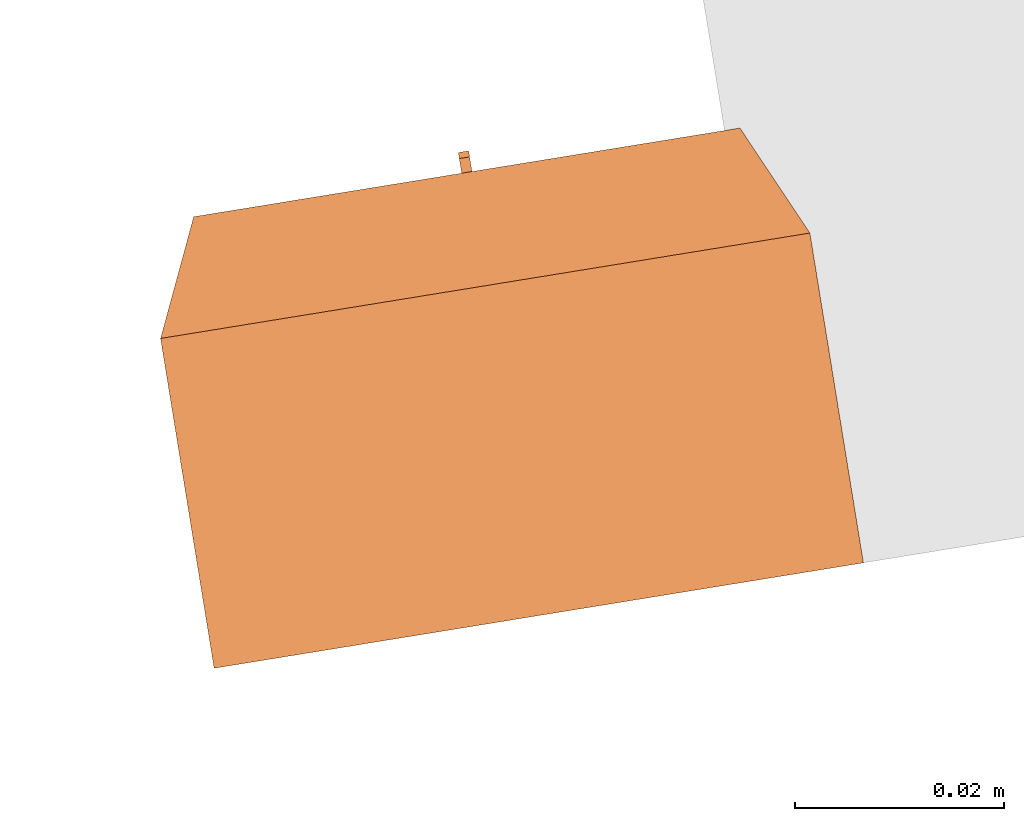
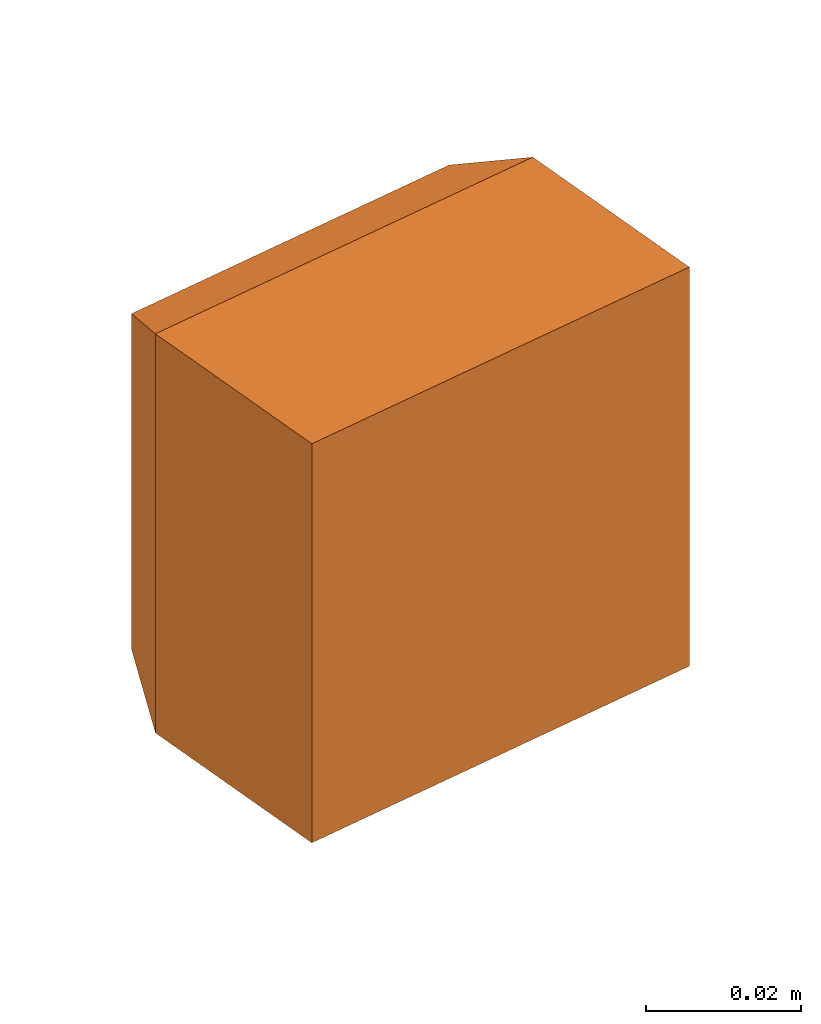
# One storey, part 20 of 20: 1 proxy.
"""IFC2X3 building model written with IfcOpenShell, lengths in millimetres."""

from ifc_helpers import new_model, entity, si_unit, converted_unit, derived_unit, direction, frame, origin, origin_with_axes, place, context, subcontext, project, spatial, faceted_brep, source, transform, mapped, material, material_list, type_object, element, save


model = new_model("IFC2X3")

# Units and contexts
model_context = context("Model", 3, precision=0.01, world=origin(), true_north=direction((6.12323399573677e-17, 1.0)))
plan_context = context("Plan", 3, precision=1e-05, world=origin_with_axes())
body_context = subcontext(model_context, "Body", "Model", "MODEL_VIEW")
ifc_project = project(units=[converted_unit("PLANEANGLEUNIT", "DEGREE", entity("IfcPositiveLengthMeasure", 0.0174532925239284), si_unit("PLANEANGLEUNIT", "RADIAN"), dimensions=[0, 0, 0, 0, 0, 0, 0]), si_unit("AREAUNIT", "SQUARE_METRE"), si_unit("LENGTHUNIT", "METRE", prefix="MILLI"), si_unit("MASSUNIT", "GRAM", prefix="KILO"), si_unit("POWERUNIT", "WATT"), si_unit("PRESSUREUNIT", "PASCAL", prefix="KILO"), si_unit("FORCEUNIT", "NEWTON", prefix="KILO"), si_unit("ELECTRICVOLTAGEUNIT", "VOLT"), si_unit("ELECTRICCURRENTUNIT", "AMPERE"), si_unit("THERMODYNAMICTEMPERATUREUNIT", "DEGREE_CELSIUS"), si_unit("TIMEUNIT", "SECOND"), si_unit("VOLUMEUNIT", "CUBIC_METRE"), derived_unit("LINEARVELOCITYUNIT", [(si_unit("LENGTHUNIT", "METRE"), 1), (si_unit("TIMEUNIT", "SECOND"), -1)]), derived_unit("VOLUMETRICFLOWRATEUNIT", [(si_unit("VOLUMEUNIT", "CUBIC_METRE"), 1), (si_unit("TIMEUNIT", "SECOND"), -1)]), derived_unit("THERMALTRANSMITTANCEUNIT", [(si_unit("POWERUNIT", "WATT"), 1), (si_unit("THERMODYNAMICTEMPERATUREUNIT", "KELVIN"), -1), (si_unit("AREAUNIT", "SQUARE_METRE"), -1)]), derived_unit("SOUNDPRESSUREUNIT", [(si_unit("PRESSUREUNIT", "PASCAL"), 1)])], contexts=[model_context, plan_context])

# Site, building, storey
site_placement = place(None, frame((-0.219946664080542, 0.12226179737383, 0.0), z_axis=(0.0, 0.0, 1.0), x_axis=(-0.160236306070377, 0.987078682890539, 0.0)))
site = spatial("IfcSite", under=ifc_project, at=site_placement, Name="Default", CompositionType="ELEMENT")
building_placement = place(site_placement, origin_with_axes())
building = spatial("IfcBuilding", under=site, at=building_placement, CompositionType="ELEMENT")
storey_placement = place(building_placement, frame((0.0, 0.0, 50999.9999999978), z_axis=(0.0, 0.0, 1.0), x_axis=(1.0, 0.0, 0.0)))
storey = spatial("IfcBuildingStorey", under=building, at=storey_placement, Name="Nivå D", CompositionType="ELEMENT", Elevation=50999.9999999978)

# Proxy
ifc_material_1 = material(Name="Material3")
ifc_material_2 = material(Name="Material2")
ifc_material_3 = material(Name="Material1")
ifc_material_list = material_list([ifc_material_1, ifc_material_2, ifc_material_3])
building_element_proxy_type = type_object("IfcBuildingElementProxyType", Name="Enkel stikk på vegg 2P+J PH:EARTHED-SOCKET-1", PredefinedType="NOTDEFINED", material=ifc_material_list)
shared_shape = source(origin(), body_context, "Body", "Brep", [
    faceted_brep([(0.499999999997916, 44.4222972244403, 18.4260408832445), (0.499999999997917, 43.0, 19.0151756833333), (0.499999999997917, 21.5, 19.0151756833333), (0.499999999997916, 21.5, 18.2117489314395), (0.499999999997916, 42.9951958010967, 18.2117489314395), (0.499999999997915, 43.4790605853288, 18.1104701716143), (0.499999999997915, 43.8816889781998, 17.8236376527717), (0.499999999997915, 35.0114320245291, 17.8236376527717), (0.499999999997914, 35.0114320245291, 17.0037436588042), (0.499999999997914, 45.0114320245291, 17.0037436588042), (-0.500000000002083, 21.5, 19.0151756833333), (-0.500000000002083, 43.0, 19.0151756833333), (-0.500000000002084, 44.4222972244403, 18.4260408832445), (-0.500000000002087, 45.0114320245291, 17.0037436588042), (-0.500000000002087, 35.0114320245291, 17.0037436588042), (-0.500000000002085, 35.0114320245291, 17.8236376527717), (-0.500000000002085, 43.8816889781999, 17.8236376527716), (-0.500000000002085, 43.4790605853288, 18.1104701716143), (-0.500000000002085, 42.9951958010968, 18.2117489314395), (-0.500000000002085, 21.5, 18.2117489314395)], [[[0, 1, 2, 3, 4, 5, 6, 7, 8, 9]], [[10, 11, 12, 13, 14, 15, 16, 17, 18, 19]], [[2, 1, 11, 10]], [[3, 2, 10, 19]], [[4, 3, 19, 18]], [[18, 17, 5, 4]], [[16, 6, 5, 17]], [[7, 6, 16, 15]], [[8, 7, 15, 14]], [[9, 8, 14, 13]], [[9, 13, 12, 0]], [[12, 11, 1, 0]]]),
    faceted_brep([(0.499999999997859, 45.0114320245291, -17.0037436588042), (0.499999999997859, 35.0114320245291, -17.0037436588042), (0.499999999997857, 35.0114320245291, -17.8236376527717), (0.499999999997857, 43.8816889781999, -17.8236376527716), (0.499999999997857, 43.4790605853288, -18.1104701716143), (0.499999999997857, 42.9951958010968, -18.2117489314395), (0.499999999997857, 21.5, -18.2117489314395), (0.499999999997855, 21.5, -19.0151756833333), (0.499999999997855, 43.0, -19.0151756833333), (0.499999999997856, 44.4222972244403, -18.4260408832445), (-0.500000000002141, 35.0114320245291, -17.0037436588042), (-0.500000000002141, 45.0114320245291, -17.0037436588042), (-0.500000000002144, 44.4222972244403, -18.4260408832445), (-0.500000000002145, 43.0, -19.0151756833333), (-0.500000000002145, 21.5, -19.0151756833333), (-0.500000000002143, 21.5, -18.2117489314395), (-0.500000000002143, 42.9951958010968, -18.2117489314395), (-0.500000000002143, 43.4790605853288, -18.1104701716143), (-0.500000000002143, 43.8816889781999, -17.8236376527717), (-0.500000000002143, 35.0114320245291, -17.8236376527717)], [[[0, 1, 2, 3, 4, 5, 6, 7, 8, 9]], [[10, 11, 12, 13, 14, 15, 16, 17, 18, 19]], [[8, 13, 12, 9]], [[12, 11, 0, 9]], [[1, 0, 11, 10]], [[2, 1, 10, 19]], [[3, 2, 19, 18]], [[18, 17, 4, 3]], [[16, 5, 4, 17]], [[6, 5, 16, 15]], [[7, 6, 15, 14]], [[8, 7, 14, 13]]]),
    faceted_brep([(-10.0, 22.0, 2.5), (-8.75, 22.0, 1.25), (-7.5, 22.0, 0.0), (-8.74999999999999, 22.0, -1.25), (-10.0, 22.0, -2.5), (-11.25, 22.0, -1.25000000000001), (-12.5, 22.0, 0.0), (-11.25, 22.0, 1.25), (-8.59834208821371, 21.5, 1.09834208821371), (-10.0, 21.5, 2.5), (-11.25, 21.5, 1.25), (-12.5, 21.5, 0.0), (-11.4016579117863, 21.5, -1.09834208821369), (-10.0, 21.5, -2.5), (-8.74999999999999, 21.5, -1.25), (-7.5, 21.5, 0.0)], [[[0, 1, 2, 3, 4, 5, 6, 7]], [[8, 9, 10, 11, 12, 13, 14, 15]], [[15, 14, 13, 4, 3, 2]], [[13, 12, 11, 6, 5, 4]], [[11, 10, 9, 0, 7, 6]], [[9, 8, 15, 2, 1, 0]]]),
    faceted_brep([(11.4016579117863, 21.5, 1.09834208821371), (10.0, 21.5, 2.5), (8.75, 21.5, 1.25), (7.5, 21.5, 0.0), (8.59834208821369, 21.5, -1.09834208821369), (10.0, 21.5, -2.5), (11.25, 21.5, -1.25), (12.5, 21.5, 0.0), (10.0, 22.0, 2.5), (11.25, 22.0, 1.25), (12.5, 22.0, 0.0), (11.25, 22.0, -1.25), (10.0, 22.0, -2.5), (8.75000000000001, 22.0, -1.25000000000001), (7.5, 22.0, 0.0), (8.75, 22.0, 1.25)], [[[0, 1, 2, 3, 4, 5, 6, 7]], [[8, 9, 10, 11, 12, 13, 14, 15]], [[7, 6, 5, 12, 11, 10]], [[5, 4, 3, 14, 13, 12]], [[3, 2, 1, 8, 15, 14]], [[1, 0, 7, 10, 9, 8]]]),
    faceted_brep([(-26.4999999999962, 43.0, -26.4999999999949), (-10.0, 43.0, -17.3205080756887), (-5.1763809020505, 43.0, -19.3185165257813), (-14.142135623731, 43.0, -14.1421356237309), (0.0, 43.0, -20.0), (-17.3205080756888, 43.0, -10.0), (-19.3185165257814, 43.0, -5.17638090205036), (-20.0, 43.0, 0.0), (-26.4999999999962, 43.0, 26.500000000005), (26.5000000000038, 43.0, -26.4999999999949), (-19.3185165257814, 43.0, 5.17638090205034), (-17.3205080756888, 43.0, 10.0), (-14.142135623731, 43.0, 14.1421356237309), (-10.0, 43.0, 17.3205080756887), (-5.17638090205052, 43.0, 19.3185165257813), (0.0, 43.0, 20.0), (26.5000000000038, 43.0, 26.500000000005), (5.1763809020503, 43.0, 19.3185165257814), (10.0, 43.0, 17.3205080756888), (14.1421356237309, 43.0, 14.142135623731), (17.3205080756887, 43.0, 10.0), (19.3185165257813, 43.0, 5.17638090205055), (20.0, 43.0, 0.0), (5.17638090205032, 43.0, -19.3185165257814), (10.0, 43.0, -17.3205080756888), (14.1421356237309, 43.0, -14.142135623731), (17.3205080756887, 43.0, -10.0), (19.3185165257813, 43.0, -5.17638090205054), (31.5000000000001, 32.0, -31.5000000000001), (10.0, 32.0, -17.3205080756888), (5.17638090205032, 32.0, -19.3185165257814), (14.1421356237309, 32.0, -14.142135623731), (0.0, 32.0, -20.0), (17.3205080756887, 32.0, -10.0), (19.3185165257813, 32.0, -5.17638090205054), (20.0, 32.0, 0.0), (31.5000000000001, 32.0, 31.5000000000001), (-31.5, 32.0, -31.5000000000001), (19.3185165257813, 32.0, 5.17638090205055), (17.3205080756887, 32.0, 10.0), (14.1421356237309, 32.0, 14.142135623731), (10.0, 32.0, 17.3205080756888), (5.1763809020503, 32.0, 19.3185165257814), (0.0, 32.0, 20.0), (-31.5, 32.0, 31.5000000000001), (-5.17638090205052, 32.0, 19.3185165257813), (-10.0, 32.0, 17.3205080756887), (-14.142135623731, 32.0, 14.1421356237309), (-17.3205080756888, 32.0, 10.0), (-19.3185165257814, 32.0, 5.17638090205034), (-20.0, 32.0, 0.0), (-5.1763809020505, 32.0, -19.3185165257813), (-10.0, 32.0, -17.3205080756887), (-14.142135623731, 32.0, -14.1421356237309), (-17.3205080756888, 32.0, -10.0), (-19.3185165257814, 32.0, -5.17638090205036)], [[[0, 1, 2]], [[1, 0, 3]], [[0, 2, 4]], [[5, 3, 0]], [[6, 5, 0]], [[7, 6, 0]], [[0, 8, 7]], [[4, 9, 0]], [[10, 7, 8]], [[11, 10, 8]], [[12, 11, 8]], [[8, 13, 12]], [[13, 8, 14]], [[15, 14, 8]], [[8, 16, 15]], [[17, 15, 16]], [[18, 17, 16]], [[16, 19, 18]], [[19, 16, 20]], [[21, 20, 16]], [[22, 21, 16]], [[22, 16, 9]], [[9, 4, 23]], [[9, 23, 24]], [[24, 25, 9]], [[25, 26, 9]], [[26, 27, 9]], [[9, 27, 22]], [[28, 29, 30]], [[29, 28, 31]], [[28, 30, 32]], [[33, 31, 28]], [[34, 33, 28]], [[35, 34, 28]], [[28, 36, 35]], [[32, 37, 28]], [[38, 35, 36]], [[39, 38, 36]], [[40, 39, 36]], [[36, 41, 40]], [[41, 36, 42]], [[43, 42, 36]], [[36, 44, 43]], [[45, 43, 44]], [[46, 45, 44]], [[44, 47, 46]], [[47, 44, 48]], [[49, 48, 44]], [[50, 49, 44]], [[50, 44, 37]], [[37, 32, 51]], [[37, 51, 52]], [[52, 53, 37]], [[53, 54, 37]], [[54, 55, 37]], [[37, 55, 50]], [[0, 37, 44, 8]], [[8, 44, 36, 16]], [[16, 36, 28, 9]], [[9, 28, 37, 0]], [[7, 50, 55, 6]], [[6, 55, 54, 5]], [[1, 3, 53, 52]], [[53, 3, 5, 54]], [[2, 1, 52, 51]], [[2, 51, 32, 4]], [[4, 32, 30, 23]], [[23, 30, 29, 24]], [[26, 25, 31, 33]], [[31, 25, 24, 29]], [[27, 26, 33, 34]], [[27, 34, 35, 22]], [[22, 35, 38, 21]], [[21, 38, 39, 20]], [[18, 19, 40, 41]], [[40, 19, 20, 39]], [[17, 18, 41, 42]], [[17, 42, 43, 15]], [[15, 43, 45, 14]], [[14, 45, 46, 13]], [[11, 12, 47, 48]], [[47, 12, 13, 46]], [[10, 11, 48, 49]], [[10, 49, 50, 7]]]),
    faceted_brep([(-17.3205080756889, 21.5, -10.0), (-17.3205080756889, 32.0, -10.0), (-19.3185165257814, 32.0, -5.17638090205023), (-19.3185165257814, 21.5, -5.17638090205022), (-20.0, 32.0, 0.0), (-20.0, 21.5, 0.0), (-5.17638090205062, 21.5, -19.3185165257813), (-5.17638090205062, 32.0, -19.3185165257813), (-10.0, 32.0, -17.3205080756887), (-10.0, 21.5, -17.3205080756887), (-14.1421356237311, 32.0, -14.1421356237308), (-14.1421356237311, 21.5, -14.1421356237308), (0.0, 21.5, -20.0), (0.0, 32.0, -20.0), (14.1421356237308, 21.5, -14.1421356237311), (14.1421356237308, 32.0, -14.1421356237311), (10.0, 32.0, -17.3205080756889), (10.0, 21.5, -17.3205080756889), (5.1763809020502, 32.0, -19.3185165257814), (5.1763809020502, 21.5, -19.3185165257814), (20.0, 21.5, 0.0), (20.0, 32.0, 0.0), (19.3185165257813, 32.0, -5.17638090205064), (19.3185165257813, 21.5, -5.17638090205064), (17.3205080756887, 32.0, -10.0), (17.3205080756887, 21.5, -10.0), (17.3205080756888, 21.5, 10.0), (17.3205080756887, 32.0, 10.0), (19.3185165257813, 32.0, 5.17638090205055), (19.3185165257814, 21.5, 5.17638090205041), (5.17638090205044, 21.5, 19.3185165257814), (5.1763809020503, 32.0, 19.3185165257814), (10.0, 32.0, 17.3205080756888), (10.0, 21.5, 17.3205080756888), (14.1421356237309, 32.0, 14.142135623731), (14.142135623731, 21.5, 14.1421356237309), (0.0, 21.5, 20.0), (0.0, 32.0, 20.0), (-14.1421356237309, 21.5, 14.142135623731), (-14.142135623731, 32.0, 14.1421356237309), (-10.0, 32.0, 17.3205080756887), (-10.0, 21.5, 17.3205080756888), (-5.17638090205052, 32.0, 19.3185165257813), (-5.17638090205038, 21.5, 19.3185165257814), (-19.3185165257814, 32.0, 5.17638090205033), (-19.3185165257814, 21.5, 5.17638090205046), (-17.3205080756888, 32.0, 10.0), (-17.3205080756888, 21.5, 10.0), (-31.4999999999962, 0.0, 31.500000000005), (-31.4999999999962, 0.0, -31.4999999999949), (31.5000000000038, 0.0, -31.4999999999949), (31.5000000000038, 0.0, 31.500000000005), (31.5000000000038, 32.0, -31.4999999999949), (-31.4999999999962, 32.0, -31.4999999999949), (31.5000000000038, 32.0, 31.500000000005), (-31.4999999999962, 32.0, 31.500000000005)], [[[0, 1, 2, 3]], [[3, 2, 4, 5]], [[6, 7, 8, 9]], [[9, 8, 10, 11]], [[11, 10, 1, 0]], [[7, 6, 12, 13]], [[14, 15, 16, 17]], [[17, 16, 18, 19]], [[20, 21, 22, 23]], [[23, 22, 24, 25]], [[25, 24, 15, 14]], [[13, 12, 19, 18]], [[26, 27, 28, 29]], [[29, 28, 21, 20]], [[30, 31, 32, 33]], [[33, 32, 34, 35]], [[35, 34, 27, 26]], [[31, 30, 36, 37]], [[38, 39, 40, 41]], [[41, 40, 42, 43]], [[5, 4, 44, 45]], [[45, 44, 46, 47]], [[47, 46, 39, 38]], [[37, 36, 43, 42]], [[48, 49, 50, 51]], [[52, 24, 22]], [[24, 52, 15]], [[52, 22, 21]], [[16, 15, 52]], [[18, 16, 52]], [[13, 18, 52]], [[52, 53, 13]], [[21, 54, 52]], [[7, 13, 53]], [[8, 7, 53]], [[10, 8, 53]], [[53, 1, 10]], [[1, 53, 2]], [[4, 2, 53]], [[53, 55, 4]], [[44, 4, 55]], [[46, 44, 55]], [[55, 39, 46]], [[39, 55, 40]], [[42, 40, 55]], [[37, 42, 55]], [[37, 55, 54]], [[54, 21, 28]], [[54, 28, 27]], [[27, 34, 54]], [[34, 32, 54]], [[32, 31, 54]], [[54, 31, 37]], [[50, 49, 53, 52]], [[51, 50, 52, 54]], [[48, 51, 54, 55]], [[49, 48, 55, 53]], [[14, 17, 19, 12, 6, 9, 11, 0, 3, 5, 45, 47, 38, 41, 43, 36, 30, 33, 35, 26, 29, 20, 23, 25]]]),
])
proxy_placement = place(storey_placement, frame((777472.619644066, -589447.481738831, 595.0), z_axis=(0.0, 0.0, 1.0), x_axis=(0.0, -1.0, 0.0)))
element("IfcBuildingElementProxy", 1, at=proxy_placement, inside=storey, type_object=building_element_proxy_type, material=ifc_material_list, Name="Enkel stikk på vegg 2P+J PH:EARTHED-SOCKET-1", ObjectType="Enkel stikk på vegg 2P+J PH:EARTHED-SOCKET-1", context=body_context, shape_type="MappedRepresentation", body=[
    mapped(shared_shape, transform((0.0, 0.0, 0.0), scale=1.0)),
])

save(model, "model.ifc")
